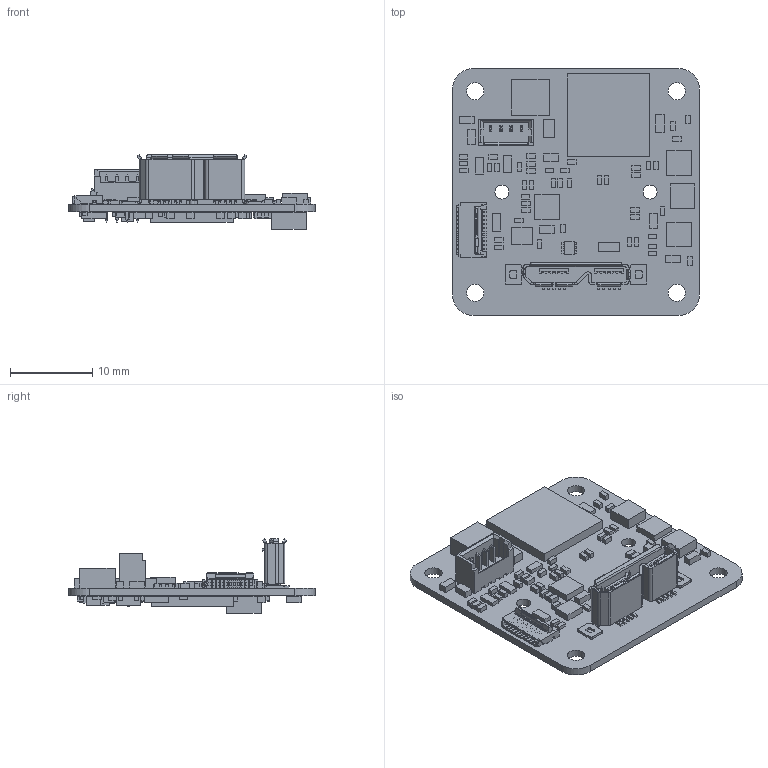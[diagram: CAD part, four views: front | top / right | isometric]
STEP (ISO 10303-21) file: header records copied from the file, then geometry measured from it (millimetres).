
FILE_DESCRIPTION(('Open CASCADE Model'),'2;1');
FILE_NAME('Open CASCADE Shape Model','2017-12-07T15:42:32',('Author'),( 'Open CASCADE'),'Open CASCADE STEP processor 6.8','Open CASCADE 6.8' ,'Unknown');
FILE_SCHEMA(('AUTOMOTIVE_DESIGN { 1 0 10303 214 1 1 1 1 }'));
Products named in the file (1): PCB
Bounding box: 30 x 30.01 x 9.08 mm (x, y, z)
Volume: 1328.5 mm3; surface area: 4119.7 mm2
Topology: 156 solids, 322 shells, 2276 faces, 6432 edges, 4661 vertices
Faces by surface type: plane 1972, cylinder 303, cone 1
Full cylindrical faces by diameter (mm): 0.5 x4, 0.7 x1, 0.8 x1, 1.7 x2, 2.1 x4
Entity records: 75340 total; most frequent: CARTESIAN_POINT 13592, ORIENTED_EDGE 11724, DIRECTION 11627, EDGE_CURVE 6369, LINE 5719, VECTOR 5719, VERTEX_POINT 4535, AXIS2_PLACEMENT_3D 2954
